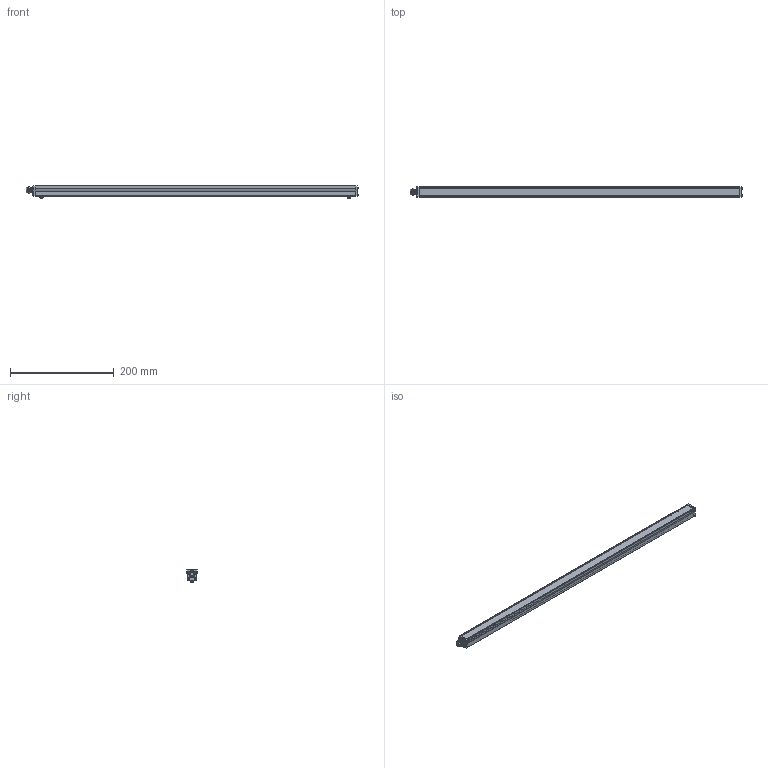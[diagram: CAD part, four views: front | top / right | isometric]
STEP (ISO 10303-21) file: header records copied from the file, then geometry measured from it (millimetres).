
FILE_DESCRIPTION (( 'STEP AP214' ), '1' );
FILE_NAME ('AL126 _NONSEALED__AL12624.stp', '2021-04-29T14:25:13', ( '' ), ( '' ), 'SwSTEP 2.0', 'SolidWorks 2018', '' );
FILE_SCHEMA (( 'AUTOMOTIVE_DESIGN' ));
Length unit declared in the file: inch
Products named in the file (15): 090876; 090875; 090877-XX_090877-24; 093469_093469; 090889-XX_090889-24; 10mm Ai; 10mm Advanced illumination; 091052 (116 126); 10mm Label (116 126)_Default<As Machined>; BH-M4x6; HN-M4_90592A016; 091064_Model_Dome Fittings_Thread Type and Size(Dome)_M10 x 1.5_Hazardous Location-Explosive Proof(ATEX and EExe Versions)_No_; 093474_093474; AL126 _NONSEALED__AL12624; 10mm Swish_Default<As Machined>
Assembly tree (24 placements, depth 3):
  AL126 _NONSEALED__AL12624
    090889-XX_090889-24
    090877-XX_090877-24
    090875
    090876
    093474_093474  x8
    093469_093469  x2
    091064_Model_Dome Fittings_Thread Type and Size(Dome)_M10 x 1.5_Hazardous Location-Explosive Proof(ATEX and EExe Versions)_No_
    HN-M4_90592A016  x2
    BH-M4x6  x2
    091052 (116 126)
      10mm Label (116 126)_Default<As Machined>
      10mm Ai
      10mm Swish_Default<As Machined>
      10mm Advanced illumination
Bounding box: 638.73 x 20.02 x 24.1 mm (x, y, z)
Volume: 85886.9 mm3; surface area: 122727.9 mm2
Topology: 48 solids, 48 shells, 1877 faces, 4840 edges, 3010 vertices
Faces by surface type: cylinder 934, plane 401, cone 362, bspline 120, torus 60
Entity records: 30293 total; most frequent: CARTESIAN_POINT 10456, ORIENTED_EDGE 4076, DIRECTION 3580, EDGE_CURVE 2038, VERTEX_POINT 1298, AXIS2_PLACEMENT_3D 1276, LINE 1028, VECTOR 1028
